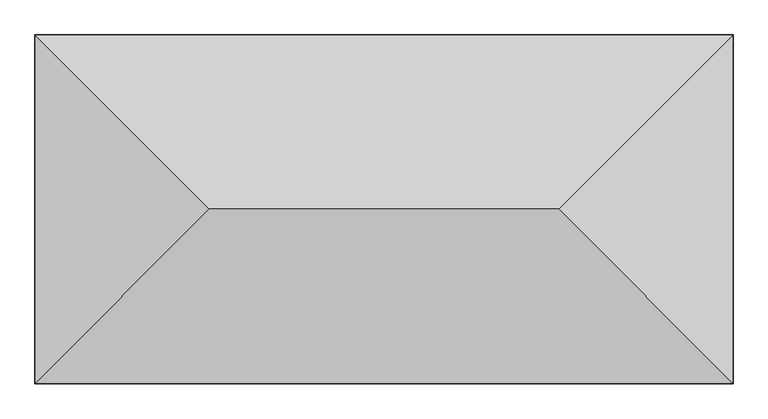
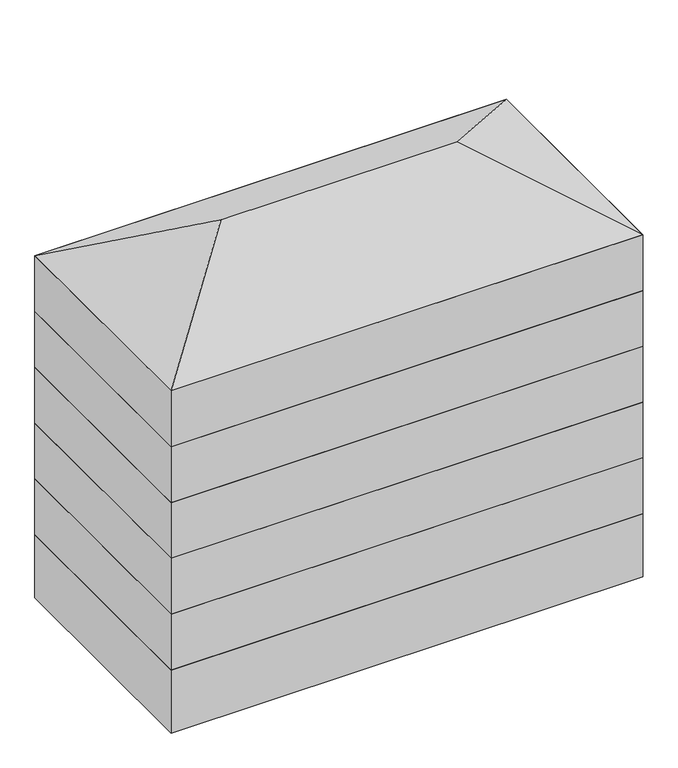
"""IFC4 building model written with IfcOpenShell, lengths in millimetres: geographic element geometry, Окружающая застройка : 5 кж."""

from ifc_helpers import new_model, si_unit, frame, origin, origin_with_axes, place, context, project, spatial, polyline, outline, extrude, faceted_brep, source, transform, mapped, element, save


def geographic_element_d360f546(model_context):
    return source(origin(), model_context, "Body", "SolidModel", [
        extrude(outline(polyline([(24000.0, 0.0), (0.0, 0.0), (0.0, 12000.0), (24000.0, 12000.0), (24000.0, 0.0)])), frame((0.0, 0.0, 12000.0), z_axis=(0.0, 0.0, 1.0), x_axis=(1.0, 0.0, 0.0)), (0.0, 0.0, 1.0), 3000.0),
        extrude(outline(polyline([(24000.0, 0.0), (0.0, 0.0), (0.0, 12000.0), (24000.0, 12000.0), (24000.0, 0.0)])), frame((0.0, 0.0, 9000.0), z_axis=(0.0, 0.0, 1.0), x_axis=(1.0, 0.0, 0.0)), (0.0, 0.0, 1.0), 3000.0),
        extrude(outline(polyline([(24000.0, 0.0), (0.0, 0.0), (0.0, 12000.0), (24000.0, 12000.0), (24000.0, 0.0)])), origin_with_axes(), (0.0, 0.0, 1.0), 3000.0),
        extrude(outline(polyline([(24000.0, 12000.0), (24000.0, 0.0), (0.0, 0.0), (0.0, 12000.0), (24000.0, 12000.0)])), frame((0.0, 0.0, -3390.8), z_axis=(0.0, 0.0, 1.0), x_axis=(1.0, 0.0, 0.0)), (0.0, 0.0, 1.0), 3390.8),
        faceted_brep([(24000.0, 0.0, 15000.0), (0.0, 0.0, 15000.0), (0.0, 12000.0, 15000.0), (24000.0, 12000.0, 15000.0), (6000.0, 6000.0, 18464.1016151), (18000.0, 6000.0, 18464.1016151)], [[[0, 1, 2, 3]], [[3, 2, 4, 5]], [[1, 0, 5, 4]], [[2, 1, 4]], [[0, 3, 5]]]),
        extrude(outline(polyline([(24000.0, 0.0), (0.0, 0.0), (0.0, 12000.0), (24000.0, 12000.0), (24000.0, 0.0)])), frame((0.0, 0.0, 3000.0), z_axis=(0.0, 0.0, 1.0), x_axis=(1.0, 0.0, 0.0)), (0.0, 0.0, 1.0), 3000.0),
        extrude(outline(polyline([(24000.0, 0.0), (0.0, 0.0), (0.0, 12000.0), (24000.0, 12000.0), (24000.0, 0.0)])), frame((0.0, 0.0, 6000.0), z_axis=(0.0, 0.0, 1.0), x_axis=(1.0, 0.0, 0.0)), (0.0, 0.0, 1.0), 3000.0),
    ])


if __name__ == "__main__":
    model = new_model("IFC4")
    model_context = context("Model", 3, world=origin())
    ifc_project = project(units=[si_unit("LENGTHUNIT", "METRE", prefix="MILLI")], contexts=[model_context])
    site = spatial("IfcSite", under=ifc_project)
    building = spatial("IfcBuilding", under=site)
    placement = place(None, origin())
    geographic_element_shape = geographic_element_d360f546(model_context)
    element("IfcGeographicElement", 1, ObjectType="Окружающая застройка : 5 кж", at=placement, inside=building, context=model_context, shape_type="MappedRepresentation", body=[
        mapped(geographic_element_shape, transform((0.0, 0.0, 0.0), x_axis=(1.0, 0.0, 0.0), y_axis=(0.0, 1.0, 0.0), z_axis=(0.0, 0.0, 1.0))),
    ])
    save(model, "model.ifc")
